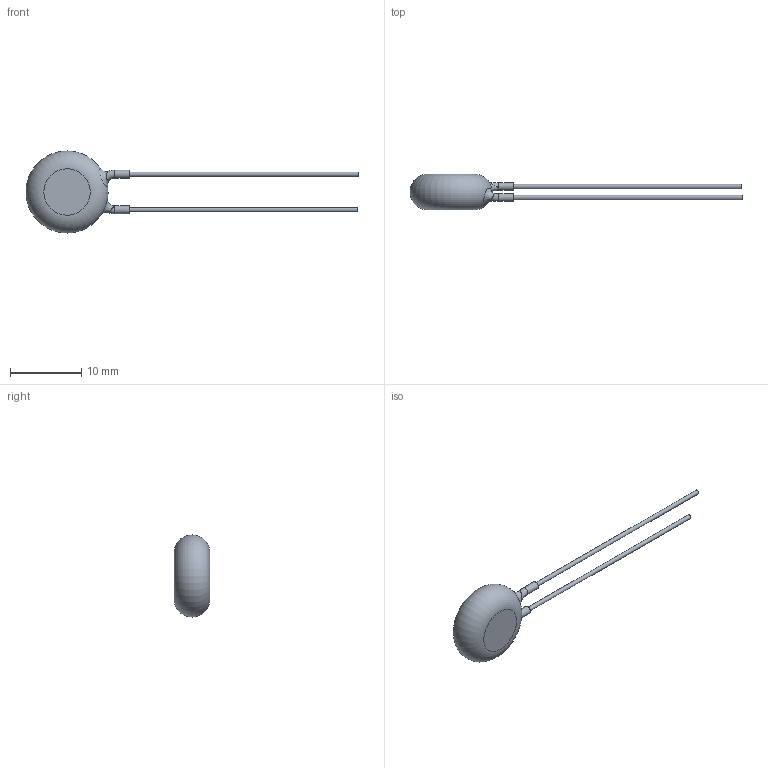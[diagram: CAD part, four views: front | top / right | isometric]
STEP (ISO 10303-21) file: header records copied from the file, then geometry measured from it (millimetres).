
FILE_DESCRIPTION((''),'2;1');
FILE_NAME('I:\Marketing\M6t1\3D-Models\Zchng-Werk-3\Upload for homepage\BCC\AY2\Y5U-5mm\AY2392K43Y5US63L5\AY2392K43Y5US63L5.stp','2015-09-09T08:32:46',(''),(''),'Autodesk Inventor 2013','Autodesk Inventor 2013','');
FILE_SCHEMA(('AUTOMOTIVE_DESIGN { 1 0 10303 214 1 1 1 1 }'));
Length unit declared in the file: centimetre
Products named in the file (1): AY2392K43Y5US63L5
Bounding box: 46.5 x 5 x 11.5 mm (x, y, z)
Volume: 457.9 mm3; surface area: 450 mm2
Topology: 1 solids, 1 shells, 15 faces, 27 edges, 18 vertices
Faces by surface type: plane 6, cylinder 4, torus 3, bspline 2
Full cylindrical faces by diameter (mm): 0.6 x2, 1.1 x2
Entity records: 665 total; most frequent: CARTESIAN_POINT 368, DIRECTION 52, ORIENTED_EDGE 32, AXIS2_PLACEMENT_3D 26, EDGE_LOOP 26, EDGE_CURVE 16, STYLED_ITEM 16, FACE_OUTER_BOUND 15
